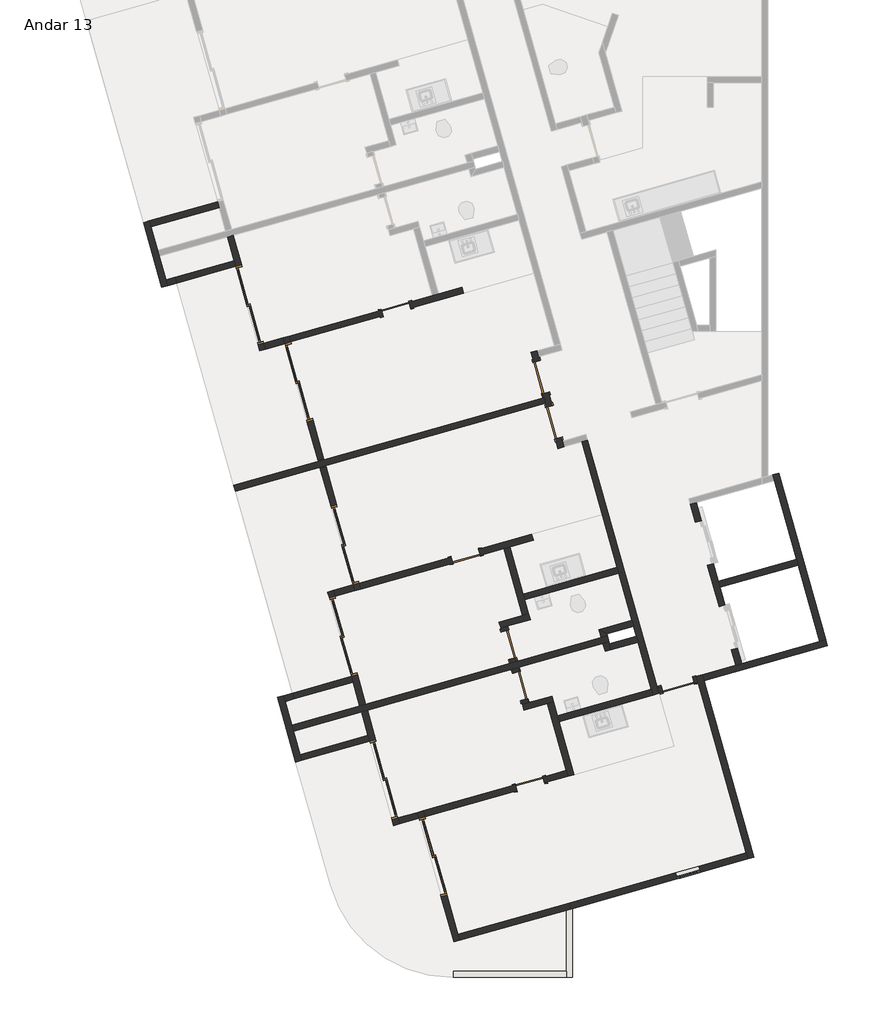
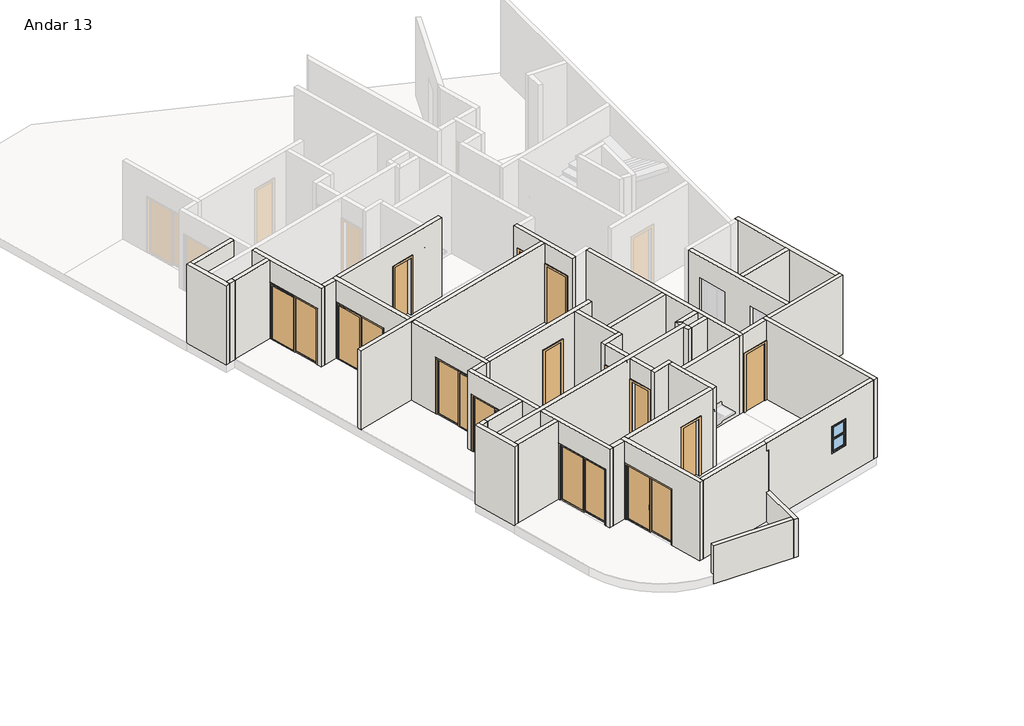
# One storey, part 1 of 3: 46 walls, 14 doors, 1 window.
"""IFC4 building model written with IfcOpenShell, lengths in millimetres."""

from ifc_helpers import new_model, si_unit, frame, origin, place, context, project, spatial, polyline, outline, extrude, faceted_brep, transform, mapped, element, save
from components import p2_80cm_9d4be4ef, p2_80cm_083652d6, p3_70cm_ef4d15e3, p3_70cm_0a698c7c, p4_correr_200cm_eaaa0877, p4_correr_200cm_830b8f20, bx_60cm_cef95a5c

model = new_model("IFC4")

# Units and contexts
model_context = context("Model", 3, world=origin())
ifc_project = project(units=[si_unit("LENGTHUNIT", "METRE", prefix="MILLI")], contexts=[model_context])

# Site, building, storey
site = spatial("IfcSite", under=ifc_project)
building = spatial("IfcBuilding", under=site)
storey = spatial("IfcBuildingStorey", under=building, Name="Andar 13", Elevation=88450.0)

# Doors
placement = place(None, origin())
p2_80cm_shape = p2_80cm_9d4be4ef(model_context)
element("IfcDoor", 1, ObjectType="M_Folha única1 : P2 - 80CM", at=placement, inside=storey, context=model_context, shape_type="MappedRepresentation", body=[
    mapped(p2_80cm_shape, transform((-80566.3456776, 19693.5423602, 88450.0), x_axis=(0.2717679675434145, -0.9623628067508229, 0.0), y_axis=(0.9623628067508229, 0.2717679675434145, 0.0), z_axis=(0.0, 0.0, 1.0))),
])
element("IfcDoor", 2, ObjectType="M_Folha única1 : P2 - 80CM", at=placement, inside=storey, context=model_context, shape_type="MappedRepresentation", body=[
    mapped(p2_80cm_shape, transform((-77213.6668366, 12144.847648, 88450.0), x_axis=(0.9623628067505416, 0.2717679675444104, 0.0), y_axis=(-0.2717679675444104, 0.9623628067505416, 0.0), z_axis=(0.0, 0.0, 1.0))),
])
p2_80cm_2_shape = p2_80cm_083652d6(model_context)
element("IfcDoor", 3, ObjectType="M_Folha única1 : P2 - 80CM", at=placement, inside=storey, context=model_context, shape_type="MappedRepresentation", body=[
    mapped(p2_80cm_2_shape, transform((-80253.8125149, 18586.8251325, 88450.0), x_axis=(-0.2717679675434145, 0.9623628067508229, 0.0), y_axis=(-0.9623628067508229, -0.2717679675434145, 0.0), z_axis=(0.0, 0.0, 1.0))),
])
p3_70cm_shape = p3_70cm_ef4d15e3(model_context)
element("IfcDoor", 4, ObjectType="M_Folha única1 : P3 - 70CM", at=placement, inside=storey, context=model_context, shape_type="MappedRepresentation", body=[
    mapped(p3_70cm_shape, transform((-84129.1775441, 21363.1168842, 88450.0), x_axis=(0.9623628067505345, 0.27176796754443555, 0.0), y_axis=(-0.27176796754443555, 0.9623628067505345, 0.0), z_axis=(0.0, 0.0, 1.0))),
])
element("IfcDoor", 5, ObjectType="M_Folha única1 : P3 - 70CM", at=placement, inside=storey, context=model_context, shape_type="MappedRepresentation", body=[
    mapped(p3_70cm_shape, transform((-80840.7851368, 9718.5269225, 88450.0), x_axis=(0.9623628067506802, 0.2717679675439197, 0.0), y_axis=(-0.2717679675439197, 0.9623628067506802, 0.0), z_axis=(0.0, 0.0, 1.0))),
])
element("IfcDoor", 6, ObjectType="M_Folha única1 : P3 - 70CM", at=placement, inside=storey, context=model_context, shape_type="MappedRepresentation", body=[
    mapped(p3_70cm_shape, transform((-81362.5862327, 13130.1209218, 88450.0), x_axis=(0.27176796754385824, -0.9623628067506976, 0.0), y_axis=(0.9623628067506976, 0.27176796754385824, 0.0), z_axis=(0.0, 0.0, 1.0))),
])
p3_70cm_2_shape = p3_70cm_0a698c7c(model_context)
element("IfcDoor", 7, ObjectType="M_Folha única1 : P3 - 70CM", at=placement, inside=storey, context=model_context, shape_type="MappedRepresentation", body=[
    mapped(p3_70cm_2_shape, transform((-81077.2298668, 12119.6399747, 88450.0), x_axis=(-0.27176796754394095, 0.9623628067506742, 0.0), y_axis=(-0.9623628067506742, -0.27176796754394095, 0.0), z_axis=(0.0, 0.0, 1.0))),
])
element("IfcDoor", 8, ObjectType="M_Folha única1 : P3 - 70CM", at=placement, inside=storey, context=model_context, shape_type="MappedRepresentation", body=[
    mapped(p3_70cm_2_shape, transform((-82417.0393485, 15300.2312016, 88450.0), x_axis=(0.9623628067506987, 0.2717679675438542, 0.0), y_axis=(-0.2717679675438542, 0.9623628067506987, 0.0), z_axis=(0.0, 0.0, 1.0))),
])
p4_correr_200cm_shape = p4_correr_200cm_eaaa0877(model_context)
element("IfcDoor", 9, ObjectType="Porta de correr dupla envidraçada sem revestimento : P4 - CORRER - 200CM", at=placement, inside=storey, context=model_context, shape_type="MappedRepresentation", body=[
    mapped(p4_correr_200cm_shape, transform((-86511.4049952, 19573.3416554, 88450.0), x_axis=(0.2717679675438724, -0.9623628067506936, 0.0), y_axis=(0.9623628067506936, 0.2717679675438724, 0.0), z_axis=(0.0, 0.0, 1.0))),
])
element("IfcDoor", 10, ObjectType="Porta de correr dupla envidraçada sem revestimento : P4 - CORRER - 200CM", at=placement, inside=storey, context=model_context, shape_type="MappedRepresentation", body=[
    mapped(p4_correr_200cm_shape, transform((-87717.4207223, 21466.8516126, 88450.0), x_axis=(0.2717679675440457, -0.9623628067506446, 0.0), y_axis=(0.9623628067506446, 0.2717679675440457, 0.0), z_axis=(0.0, 0.0, 1.0))),
])
element("IfcDoor", 11, ObjectType="Porta de correr dupla envidraçada sem revestimento : P4 - CORRER - 200CM", at=placement, inside=storey, context=model_context, shape_type="MappedRepresentation", body=[
    mapped(p4_correr_200cm_shape, transform((-84429.028315, 9822.2616509, 88450.0), x_axis=(-0.27176796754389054, 0.9623628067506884, 0.0), y_axis=(-0.9623628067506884, -0.27176796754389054, 0.0), z_axis=(0.0, 0.0, 1.0))),
])
element("IfcDoor", 12, ObjectType="Porta de correr dupla envidraçada sem revestimento : P4 - CORRER - 200CM", at=placement, inside=storey, context=model_context, shape_type="MappedRepresentation", body=[
    mapped(p4_correr_200cm_shape, transform((-83223.012588, 7928.7516937, 88450.0), x_axis=(-0.2717679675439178, 0.9623628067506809, 0.0), y_axis=(-0.9623628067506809, -0.2717679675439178, 0.0), z_axis=(0.0, 0.0, 1.0))),
])
p4_correr_200cm_2_shape = p4_correr_200cm_830b8f20(model_context)
element("IfcDoor", 13, ObjectType="Porta de correr dupla envidraçada sem revestimento : P4 - CORRER - 200CM", at=placement, inside=storey, context=model_context, shape_type="MappedRepresentation", body=[
    mapped(p4_correr_200cm_2_shape, transform((-85383.5679299, 15579.5360073, 88450.0), x_axis=(-0.2717679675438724, 0.9623628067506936, 0.0), y_axis=(-0.9623628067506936, -0.2717679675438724, 0.0), z_axis=(0.0, 0.0, 1.0))),
])
element("IfcDoor", 14, ObjectType="Porta de correr dupla envidraçada sem revestimento : P4 - CORRER - 200CM", at=placement, inside=storey, context=model_context, shape_type="MappedRepresentation", body=[
    mapped(p4_correr_200cm_2_shape, transform((-85420.9813965, 13334.8858955, 88450.0), x_axis=(-0.27176796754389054, 0.9623628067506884, 0.0), y_axis=(-0.9623628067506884, -0.27176796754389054, 0.0), z_axis=(0.0, 0.0, 1.0))),
])

# Walls
element("IfcWall", 15, ObjectType="Básica .15 - Externa", at=placement, inside=storey, context=model_context, shape_type="Brep", body=[
    faceted_brep([(-75344.9919691, 7919.3931149, 88450.0), (-76567.7484146, 12249.3196164, 88450.0), (-76608.5136097, 12393.6740374, 88450.0), (-76608.5136097, 12393.6740374, 91350.0), (-76567.7484146, 12249.3196164, 91350.0), (-75344.9919691, 7919.3931149, 91350.0), (-75489.3463901, 7878.6279198, 88450.0), (-75489.3463901, 7878.6279198, 91350.0), (-75530.1115852, 8022.9823408, 91350.0), (-76712.1028356, 12208.5544213, 91350.0), (-76752.8680308, 12352.9088423, 91350.0), (-76752.8680308, 12352.9088423, 88450.0), (-76712.1028356, 12208.5544213, 88450.0), (-75530.1115852, 8022.9823408, 88450.0)], [[[0, 1, 2, 3, 4, 5]], [[6, 7, 8, 9, 10, 11, 12, 13]], [[2, 1, 0, 6, 13, 12, 11]], [[5, 4, 3, 10, 9, 8, 7]], [[0, 5, 7, 6]], [[3, 2, 11, 10]]]),
])
element("IfcWall", 16, ObjectType="Básica .15 -  Interna", at=placement, inside=storey, context=model_context, shape_type="Brep", body=[
    faceted_brep([(-80529.815701, 19288.21464, 88450.0), (-80502.6389043, 19191.9783593, 88450.0), (-80461.8737092, 19047.6239383, 88450.0), (-80434.6969124, 18951.3876576, 88450.0), (-80434.6969124, 18951.3876576, 90550.0), (-80217.2825384, 18181.4974122, 90550.0), (-80217.2825384, 18181.4974122, 88450.0), (-80149.3405465, 17940.9067105, 88450.0), (-80149.3405465, 17940.9067105, 91350.0), (-80461.8737092, 19047.6239383, 91350.0), (-80502.6389043, 19191.9783593, 91350.0), (-80815.172067, 20298.695587, 91350.0), (-80815.172067, 20298.695587, 88450.0), (-80747.2300751, 20058.1048854, 88450.0), (-80747.2300751, 20058.1048854, 90550.0), (-80529.815701, 19288.21464, 90550.0), (-80290.3424914, 18992.1528527, 90550.0), (-80290.3424914, 18992.1528527, 88450.0), (-80385.46128, 19328.9798351, 88450.0), (-80385.46128, 19328.9798351, 90550.0), (-80602.8756541, 20098.8700805, 90550.0), (-80602.8756541, 20098.8700805, 88450.0), (-80630.0524508, 20195.1063612, 88450.0), (-80670.817646, 20339.4607822, 88450.0), (-80670.817646, 20339.4607822, 91350.0), (-80630.0524508, 20195.1063612, 91350.0), (-80045.7513206, 18126.0263266, 91350.0), (-80004.9861255, 17981.6719056, 91350.0), (-80004.9861255, 17981.6719056, 88450.0), (-80045.7513206, 18126.0263266, 88450.0), (-80072.9281174, 18222.2626073, 88450.0), (-80072.9281174, 18222.2626073, 90550.0)], [[[0, 1, 2, 3, 4, 5, 6, 7, 8, 9, 10, 11, 12, 13, 14, 15]], [[16, 17, 18, 19, 20, 21, 22, 23, 24, 25, 26, 27, 28, 29, 30, 31]], [[13, 12, 23, 22, 21]], [[18, 17, 3, 2, 1, 0]], [[30, 29, 28, 7, 6]], [[11, 10, 9, 8, 27, 26, 25, 24]], [[12, 11, 24, 23]], [[8, 7, 28, 27]], [[19, 18, 0, 15]], [[20, 19, 15, 14]], [[21, 20, 14, 13]], [[4, 3, 17, 16]], [[5, 4, 16, 31]], [[6, 5, 31, 30]]]),
])
element("IfcWall", 17, ObjectType="Básica .15 -  Interna", at=placement, inside=storey, context=model_context, shape_type="Brep", body=[
    faceted_brep([(-79571.9228624, 18103.967491, 88450.0), (-78702.2653663, 15024.4065094, 88450.0), (-78661.5001712, 14880.0520884, 88450.0), (-78335.3786101, 13725.2167203, 88450.0), (-78294.613415, 13580.8622993, 88450.0), (-78226.6714231, 13340.2715976, 88450.0), (-78185.906228, 13195.9171766, 88450.0), (-77818.8200634, 11896.0212586, 88450.0), (-77818.8200634, 11896.0212586, 91350.0), (-78185.906228, 13195.9171766, 91350.0), (-78226.6714231, 13340.2715976, 91350.0), (-78294.613415, 13580.8622993, 91350.0), (-78335.3786101, 13725.2167203, 91350.0), (-78661.5001712, 14880.0520884, 91350.0), (-78702.2653663, 15024.4065094, 91350.0), (-79571.9228624, 18103.967491, 91350.0), (-79427.5684414, 18144.7326862, 88450.0), (-79427.5684414, 18144.7326862, 91350.0), (-77715.2308375, 12081.1408747, 91350.0), (-77674.4656424, 11936.7864537, 91350.0), (-77674.4656424, 11936.7864537, 88450.0), (-77715.2308375, 12081.1408747, 88450.0)], [[[0, 1, 2, 3, 4, 5, 6, 7, 8, 9, 10, 11, 12, 13, 14, 15]], [[16, 17, 18, 19, 20, 21]], [[7, 6, 5, 4, 3, 2, 1, 0, 16, 21, 20]], [[15, 14, 13, 12, 11, 10, 9, 8, 19, 18, 17]], [[0, 15, 17, 16]], [[8, 7, 20, 19]]]),
])
element("IfcWall", 18, ObjectType="Básica .15 -  Interna", at=placement, inside=storey, context=model_context, shape_type="Brep", body=[
    faceted_brep([(-85017.5646639, 11630.3683862, 91350.0), (-85180.6254444, 12207.7860702, 91350.0), (-85221.3906395, 12352.1404912, 91350.0), (-85805.6917697, 14421.2205257, 91350.0), (-85805.6917697, 14421.2205257, 88450.0), (-85764.9265746, 14276.8661047, 88450.0), (-85764.9265746, 14276.8661047, 90550.0), (-85221.3906395, 12352.1404912, 90550.0), (-85221.3906395, 12352.1404912, 88450.0), (-85180.6254444, 12207.7860702, 88450.0), (-85017.5646639, 11630.3683862, 88450.0), (-85661.3373487, 14461.9857209, 91350.0), (-85620.5721536, 14317.6312998, 91350.0), (-84873.2102428, 11671.1335813, 91350.0), (-84873.2102428, 11671.1335813, 88450.0), (-85077.0362185, 12392.9056863, 88450.0), (-85077.0362185, 12392.9056863, 90550.0), (-85620.5721536, 14317.6312998, 90550.0), (-85620.5721536, 14317.6312998, 88450.0), (-85661.3373487, 14461.9857209, 88450.0)], [[[0, 1, 2, 3, 4, 5, 6, 7, 8, 9, 10]], [[11, 12, 13, 14, 15, 16, 17, 18, 19]], [[4, 19, 18, 5]], [[14, 10, 9, 8, 15]], [[3, 2, 1, 0, 13, 12, 11]], [[4, 3, 11, 19]], [[0, 10, 14, 13]], [[17, 6, 5, 18]], [[6, 17, 16, 7]], [[7, 16, 15, 8]]]),
])
element("IfcWall", 19, ObjectType="Básica .15 -  Interna", at=placement, inside=storey, context=model_context, shape_type="Brep", body=[
    faceted_brep([(-82710.8886682, 5839.2890616, 91350.0), (-83566.957766, 8870.7319029, 91350.0), (-83607.7229611, 9015.0863239, 91350.0), (-83607.7229611, 9015.0863239, 88450.0), (-83566.957766, 8870.7319029, 88450.0), (-83566.957766, 8870.7319029, 90550.0), (-83023.4218309, 6946.0062894, 90550.0), (-83023.4218309, 6946.0062894, 88450.0), (-82710.8886682, 5839.2890616, 88450.0), (-83463.3685401, 9055.851519, 91350.0), (-83422.603345, 8911.497098, 91350.0), (-82607.2994424, 6024.4086777, 91350.0), (-82566.5342472, 5880.0542567, 91350.0), (-82566.5342472, 5880.0542567, 88450.0), (-82607.2994424, 6024.4086777, 88450.0), (-82879.0674099, 6986.7714845, 88450.0), (-82879.0674099, 6986.7714845, 90550.0), (-83422.603345, 8911.497098, 90550.0), (-83422.603345, 8911.497098, 88450.0), (-83463.3685401, 9055.851519, 88450.0)], [[[0, 1, 2, 3, 4, 5, 6, 7, 8]], [[9, 10, 11, 12, 13, 14, 15, 16, 17, 18, 19]], [[3, 19, 18, 4]], [[13, 8, 7, 15, 14]], [[2, 1, 0, 12, 11, 10, 9]], [[3, 2, 9, 19]], [[0, 8, 13, 12]], [[17, 5, 4, 18]], [[5, 17, 16, 6]], [[6, 16, 15, 7]]]),
])
element("IfcWall", 20, ObjectType="Básica .15 -  Interna", at=placement, inside=storey, context=model_context, shape_type="Brep", body=[
    faceted_brep([(-86046.8404698, 17652.2925145, 88450.0), (-86046.8404698, 17652.2925145, 91350.0), (-86855.3501733, 20515.3218646, 91350.0), (-86896.1153684, 20659.6762856, 91350.0), (-86896.1153684, 20659.6762856, 88450.0), (-86855.3501733, 20515.3218646, 88450.0), (-86855.3501733, 20515.3218646, 90550.0), (-86311.8142382, 18590.596251, 90550.0), (-86311.8142382, 18590.596251, 88450.0), (-85902.4860488, 17693.0577096, 91350.0), (-85902.4860488, 17693.0577096, 88450.0), (-86167.4598172, 18631.3614462, 88450.0), (-86167.4598172, 18631.3614462, 90550.0), (-86710.9957523, 20556.0870597, 90550.0), (-86710.9957523, 20556.0870597, 88450.0), (-86751.7609474, 20700.4414807, 88450.0), (-86751.7609474, 20700.4414807, 91350.0), (-86710.9957523, 20556.0870597, 91350.0)], [[[0, 1, 2, 3, 4, 5, 6, 7, 8]], [[9, 10, 11, 12, 13, 14, 15, 16, 17]], [[10, 0, 8, 11]], [[4, 15, 14, 5]], [[1, 0, 10, 9]], [[3, 2, 1, 9, 17, 16]], [[4, 3, 16, 15]], [[7, 12, 11, 8]], [[12, 7, 6, 13]], [[13, 6, 5, 14]]]),
])
element("IfcWall", 21, ObjectType="Básica .15 - Externa", at=placement, inside=storey, context=model_context, shape_type="Brep", body=[
    faceted_brep([(-79945.4990038, 6620.2256515, 89550.0), (-79945.4990038, 6620.2256515, 88450.0), (-79945.4990038, 6620.2256515, 88150.0), (-79945.4990038, 5119.4122055, 88150.0), (-79945.4990038, 4969.4122055, 88150.0), (-79945.4990038, 4969.4122055, 89550.0), (-79945.4990038, 5119.4122055, 89550.0), (-79795.4990038, 6662.5851389, 88150.0), (-79795.4990038, 6662.5851389, 89550.0), (-79795.4990038, 4969.4122055, 89550.0), (-79795.4990038, 4969.4122055, 88150.0), (-79850.1164062, 6647.1613711, 88150.0)], [[[0, 1, 2, 3, 4, 5, 6]], [[7, 8, 9, 10]], [[4, 3, 2, 11, 7, 10]], [[0, 6, 5, 9, 8]], [[5, 4, 10, 9]], [[0, 8, 7, 11, 2, 1]]]),
])
element("IfcWall", 22, ObjectType="Básica .15 - Externa", at=placement, inside=storey, context=model_context, shape_type="SweptSolid", body=[
    extrude(outline(polyline([(-82713.5540687, 5119.4122055), (-79945.4990038, 5119.4122055), (-79945.4990038, 4969.4122055), (-82713.5540687, 4969.4122055), (-82713.5540687, 5119.4122055)])), frame((0.0, 0.0, 88150.0), z_axis=(0.0, 0.0, 1.0), x_axis=(1.0, 0.0, 0.0)), (0.0, 0.0, 1.0), 1400.0),
])
element("IfcWall", 23, ObjectType="Básica .15 - Externa", at=placement, inside=storey, context=model_context, shape_type="Brep", body=[
    faceted_brep([(-73581.8825825, 13248.3842954, 88450.0), (-73726.2370035, 13207.6191002, 88450.0), (-75646.150803, 12665.442005, 88450.0), (-75790.505224, 12624.6768098, 88450.0), (-76608.5136097, 12393.6740374, 88450.0), (-76608.5136097, 12393.6740374, 91350.0), (-75790.505224, 12624.6768098, 91350.0), (-75646.150803, 12665.442005, 91350.0), (-73726.2370035, 13207.6191002, 91350.0), (-73581.8825825, 13248.3842954, 91350.0), (-73541.1173874, 13104.0298743, 88450.0), (-73541.1173874, 13104.0298743, 91350.0), (-76567.7484146, 12249.3196164, 91350.0), (-76567.7484146, 12249.3196164, 88450.0)], [[[0, 1, 2, 3, 4, 5, 6, 7, 8, 9]], [[10, 11, 12, 13]], [[4, 3, 2, 1, 0, 10, 13]], [[9, 8, 7, 6, 5, 12, 11]], [[0, 9, 11, 10]], [[5, 4, 13, 12]]]),
])
element("IfcWall", 24, ObjectType="Básica .15 - Externa", at=placement, inside=storey, context=model_context, shape_type="Brep", body=[
    faceted_brep([(-74881.2508656, 17297.6610289, 88450.0), (-74840.4856705, 17153.3066079, 88450.0), (-74296.9497354, 15228.5809944, 88450.0), (-74256.1845402, 15084.2265734, 88450.0), (-73726.2370035, 13207.6191002, 88450.0), (-73726.2370035, 13207.6191002, 91350.0), (-74256.1845402, 15084.2265734, 91350.0), (-74296.9497354, 15228.5809944, 91350.0), (-74840.4856705, 17153.3066079, 91350.0), (-74881.2508656, 17297.6610289, 91350.0), (-74736.8964446, 17338.426224, 88450.0), (-74736.8964446, 17338.426224, 91350.0), (-73581.8825825, 13248.3842954, 91350.0), (-73581.8825825, 13248.3842954, 88450.0)], [[[0, 1, 2, 3, 4, 5, 6, 7, 8, 9]], [[10, 11, 12, 13]], [[4, 3, 2, 1, 0, 10, 13]], [[9, 8, 7, 6, 5, 12, 11]], [[0, 9, 11, 10]], [[5, 4, 13, 12]]]),
])
element("IfcWall", 25, ObjectType="Básica .15 -  Interna", at=placement, inside=storey, context=model_context, shape_type="Brep", body=[
    faceted_brep([(-76483.167581, 15077.4768805, 88450.0), (-76197.8112151, 14066.9959334, 88450.0), (-76197.8112151, 14066.9959334, 90575.0), (-75898.8664508, 13008.396846, 90575.0), (-75898.8664508, 13008.396846, 88450.0), (-75790.505224, 12624.6768098, 88450.0), (-75790.505224, 12624.6768098, 91350.0), (-76904.7538909, 16570.3643175, 91350.0), (-76904.7538909, 16570.3643175, 88450.0), (-76782.1123453, 16136.075968, 88450.0), (-76782.1123453, 16136.075968, 90575.0), (-76483.167581, 15077.4768805, 90575.0), (-76053.4567941, 14107.7611286, 90575.0), (-76053.4567941, 14107.7611286, 88450.0), (-76176.0983397, 14542.0494781, 88450.0), (-76216.8635348, 14686.4038991, 88450.0), (-76338.81316, 15118.2420757, 88450.0), (-76338.81316, 15118.2420757, 90575.0), (-76637.7579243, 16176.8411631, 90575.0), (-76637.7579243, 16176.8411631, 88450.0), (-76760.3994699, 16611.1295126, 88450.0), (-76760.3994699, 16611.1295126, 91350.0), (-76216.8635348, 14686.4038991, 91350.0), (-76176.0983397, 14542.0494781, 91350.0), (-75646.150803, 12665.442005, 91350.0), (-75646.150803, 12665.442005, 88450.0), (-75754.5120298, 13049.1620412, 88450.0), (-75754.5120298, 13049.1620412, 90575.0)], [[[0, 1, 2, 3, 4, 5, 6, 7, 8, 9, 10, 11]], [[12, 13, 14, 15, 16, 17, 18, 19, 20, 21, 22, 23, 24, 25, 26, 27]], [[9, 8, 20, 19]], [[26, 25, 5, 4]], [[16, 15, 14, 13, 1, 0]], [[7, 6, 24, 23, 22, 21]], [[8, 7, 21, 20]], [[6, 5, 25, 24]], [[4, 3, 27, 26]], [[2, 1, 13, 12]], [[3, 2, 12, 27]], [[19, 18, 10, 9]], [[17, 16, 0, 11]], [[18, 17, 11, 10]]]),
])
element("IfcWall", 26, ObjectType="Básica .15 -  Interna", at=placement, inside=storey, context=model_context, shape_type="SweptSolid", body=[
    extrude(outline(polyline([(-74256.1845402, 15084.2265734), (-76176.0983397, 14542.0494781), (-76216.8635348, 14686.4038991), (-74296.9497354, 15228.5809944), (-74256.1845402, 15084.2265734)])), frame((0.0, 0.0, 88450.0), z_axis=(0.0, 0.0, 1.0), x_axis=(1.0, 0.0, 0.0)), (0.0, 0.0, 1.0), 2900.0),
])
element("IfcWall", 27, ObjectType="Básica .15 -  Interna", at=placement, inside=storey, context=model_context, shape_type="Brep", body=[
    faceted_brep([(-82566.5342472, 5880.0542567, 88450.0), (-79945.4990038, 6620.2256515, 88450.0), (-79850.1164062, 6647.1613711, 88450.0), (-79850.1164062, 6647.1613711, 91050.0), (-79945.4990038, 6620.2256515, 91050.0), (-79945.4990038, 6620.2256515, 91350.0), (-82566.5342472, 5880.0542567, 91350.0), (-82607.2994424, 6024.4086777, 88450.0), (-82607.2994424, 6024.4086777, 91350.0), (-79945.4990038, 6776.0920243, 91350.0), (-79945.4990038, 6776.0920243, 91050.0), (-79890.8816014, 6791.5157921, 91050.0), (-79890.8816014, 6791.5157921, 88450.0), (-79945.4990038, 6776.0920243, 88450.0)], [[[0, 1, 2, 3, 4, 5, 6]], [[7, 8, 9, 10, 11, 12, 13]], [[2, 1, 0, 7, 13, 12]], [[6, 5, 9, 8]], [[0, 6, 8, 7]], [[2, 12, 11, 3]], [[10, 4, 3, 11]], [[5, 4, 10, 9]]]),
])
element("IfcWall", 28, ObjectType="Básica .15 -  Interna", at=placement, inside=storey, context=model_context, shape_type="Brep", body=[
    faceted_brep([(-85221.3906395, 12352.1404912, 88450.0), (-86668.7560772, 11943.4094383, 88450.0), (-86668.7560772, 11943.4094383, 91350.0), (-85221.3906395, 12352.1404912, 91350.0), (-85221.3906395, 12352.1404912, 90550.0), (-85180.6254444, 12207.7860702, 88450.0), (-85180.6254444, 12207.7860702, 91350.0), (-86627.9908821, 11799.0550173, 91350.0), (-86627.9908821, 11799.0550173, 88450.0)], [[[0, 1, 2, 3, 4]], [[5, 6, 7, 8]], [[1, 0, 5, 8]], [[2, 1, 8, 7]], [[3, 2, 7, 6]], [[0, 4, 3, 6, 5]]]),
])
element("IfcWall", 29, ObjectType="Básica .15 - Externa", at=placement, inside=storey, context=model_context, shape_type="Brep", body=[
    faceted_brep([(-86444.4738537, 10292.215871, 88450.0), (-86485.2390488, 10436.570292, 88450.0), (-86648.2998293, 11013.987976, 88450.0), (-86689.0650245, 11158.342397, 88450.0), (-86852.125805, 11735.7600811, 88450.0), (-86892.8910001, 11880.1145021, 88450.0), (-86892.8910001, 11880.1145021, 91350.0), (-86852.125805, 11735.7600811, 91350.0), (-86689.0650245, 11158.342397, 91350.0), (-86648.2998293, 11013.987976, 91350.0), (-86485.2390488, 10436.570292, 91350.0), (-86444.4738537, 10292.215871, 91350.0), (-86588.8282747, 10251.4506758, 88450.0), (-86588.8282747, 10251.4506758, 91350.0), (-87037.2454211, 11839.349307, 91350.0), (-87037.2454211, 11839.349307, 88450.0)], [[[0, 1, 2, 3, 4, 5, 6, 7, 8, 9, 10, 11]], [[12, 13, 14, 15]], [[5, 4, 3, 2, 1, 0, 12, 15]], [[11, 10, 9, 8, 7, 6, 14, 13]], [[6, 5, 15, 14]], [[0, 11, 13, 12]]]),
])
element("IfcWall", 30, ObjectType="Básica .15 -  Interna", at=placement, inside=storey, context=model_context, shape_type="Brep", body=[
    faceted_brep([(-86444.4738537, 10292.215871, 88450.0), (-84772.9734931, 10764.2418601, 88450.0), (-84772.9734931, 10764.2418601, 90550.0), (-84772.9734931, 10764.2418601, 91350.0), (-86444.4738537, 10292.215871, 91350.0), (-86485.2390488, 10436.570292, 88450.0), (-86485.2390488, 10436.570292, 91350.0), (-84813.7386882, 10908.5962811, 91350.0), (-84813.7386882, 10908.5962811, 88450.0)], [[[0, 1, 2, 3, 4]], [[5, 6, 7, 8]], [[1, 0, 5, 8]], [[4, 3, 7, 6]], [[0, 4, 6, 5]], [[3, 2, 1, 8, 7]]]),
])
element("IfcWall", 31, ObjectType="Básica .15 - Externa", at=placement, inside=storey, context=model_context, shape_type="Brep", body=[
    faceted_brep([(-89732.866261, 21936.8058326, 88450.0), (-89773.6314561, 22081.1602536, 88450.0), (-89936.6922366, 22658.5779377, 88450.0), (-89977.4574318, 22802.9323587, 88450.0), (-90140.5182123, 23380.3500428, 88450.0), (-90181.2834074, 23524.7044638, 88450.0), (-90181.2834074, 23524.7044638, 91350.0), (-90140.5182123, 23380.3500428, 91350.0), (-89977.4574318, 22802.9323587, 91350.0), (-89936.6922366, 22658.5779377, 91350.0), (-89773.6314561, 22081.1602536, 91350.0), (-89732.866261, 21936.8058326, 91350.0), (-89877.220682, 21896.0406375, 88450.0), (-89877.220682, 21896.0406375, 91350.0), (-90325.6378284, 23483.9392686, 91350.0), (-90325.6378284, 23483.9392686, 88450.0)], [[[0, 1, 2, 3, 4, 5, 6, 7, 8, 9, 10, 11]], [[12, 13, 14, 15]], [[5, 4, 3, 2, 1, 0, 12, 15]], [[11, 10, 9, 8, 7, 6, 14, 13]], [[0, 11, 13, 12]], [[6, 5, 15, 14]]]),
])
element("IfcWall", 32, ObjectType="Básica .15 -  Interna", at=placement, inside=storey, context=model_context, shape_type="Brep", body=[
    faceted_brep([(-88102.1310955, 22553.1862428, 88450.0), (-89549.4965332, 22144.4551899, 88450.0), (-89549.4965332, 22144.4551899, 91350.0), (-88102.1310955, 22553.1862428, 91350.0), (-88061.3659003, 22408.8318218, 88450.0), (-88061.3659003, 22408.8318218, 90550.0), (-88061.3659003, 22408.8318218, 91350.0), (-89508.731338, 22000.1007688, 91350.0), (-89508.731338, 22000.1007688, 88450.0)], [[[0, 1, 2, 3]], [[4, 5, 6, 7, 8]], [[1, 0, 4, 8]], [[2, 1, 8, 7]], [[3, 2, 7, 6]], [[0, 3, 6, 5, 4]]]),
])
element("IfcWall", 33, ObjectType="Básica .15 -  Interna", at=placement, inside=storey, context=model_context, shape_type="Brep", body=[
    faceted_brep([(-90140.5182123, 23380.3500428, 88450.0), (-88469.0178517, 23852.3760319, 88450.0), (-88469.0178517, 23852.3760319, 91350.0), (-90140.5182123, 23380.3500428, 91350.0), (-90181.2834074, 23524.7044638, 88450.0), (-90181.2834074, 23524.7044638, 91350.0), (-88509.7830468, 23996.7304529, 91350.0), (-88509.7830468, 23996.7304529, 90550.0), (-88509.7830468, 23996.7304529, 88450.0)], [[[0, 1, 2, 3]], [[4, 5, 6, 7, 8]], [[1, 0, 4, 8]], [[3, 2, 6, 5]], [[0, 3, 5, 4]], [[2, 1, 8, 7, 6]]]),
])
element("IfcWall", 34, ObjectType="Básica .15 -  Interna", at=placement, inside=storey, context=model_context, shape_type="Brep", body=[
    faceted_brep([(-86896.1153684, 20659.6762856, 88450.0), (-87373.4755442, 20524.8714034, 88450.0), (-87373.4755442, 20524.8714034, 90550.0), (-87373.4755442, 20524.8714034, 91350.0), (-86896.1153684, 20659.6762856, 91350.0), (-86855.3501733, 20515.3218646, 88450.0), (-86855.3501733, 20515.3218646, 90550.0), (-86855.3501733, 20515.3218646, 91350.0), (-87332.7103491, 20380.5169824, 91350.0), (-87332.7103491, 20380.5169824, 88450.0)], [[[0, 1, 2, 3, 4]], [[5, 6, 7, 8, 9]], [[1, 0, 5, 9]], [[4, 3, 8, 7]], [[0, 4, 7, 6, 5]], [[3, 2, 1, 9, 8]]]),
])
element("IfcWall", 35, ObjectType="Básica .15 -  Interna", at=placement, inside=storey, context=model_context, shape_type="Brep", body=[
    faceted_brep([(-83607.7229611, 9015.0863239, 88450.0), (-84085.083137, 8880.2814417, 88450.0), (-84085.083137, 8880.2814417, 90550.0), (-84085.083137, 8880.2814417, 91350.0), (-83607.7229611, 9015.0863239, 91350.0), (-83566.957766, 8870.7319029, 88450.0), (-83566.957766, 8870.7319029, 90550.0), (-83566.957766, 8870.7319029, 91350.0), (-84044.3179418, 8735.9270207, 91350.0), (-84044.3179418, 8735.9270207, 88450.0)], [[[0, 1, 2, 3, 4]], [[5, 6, 7, 8, 9]], [[1, 0, 5, 9]], [[4, 3, 8, 7]], [[3, 2, 1, 9, 8]], [[0, 4, 7, 6, 5]]]),
])
element("IfcWall", 36, ObjectType="Básica .15 -  Interna", at=placement, inside=storey, context=model_context, shape_type="Brep", body=[
    faceted_brep([(-85183.9771729, 14596.790603, 88450.0), (-85661.3373487, 14461.9857209, 88450.0), (-85661.3373487, 14461.9857209, 91350.0), (-85183.9771729, 14596.790603, 91350.0), (-85183.9771729, 14596.790603, 90550.0), (-85143.2119778, 14452.436182, 88450.0), (-85143.2119778, 14452.436182, 91350.0), (-85620.5721536, 14317.6312998, 91350.0), (-85620.5721536, 14317.6312998, 90550.0), (-85620.5721536, 14317.6312998, 88450.0)], [[[0, 1, 2, 3, 4]], [[5, 6, 7, 8, 9]], [[1, 0, 5, 9]], [[3, 2, 7, 6]], [[2, 1, 9, 8, 7]], [[0, 4, 3, 6, 5]]]),
])
element("IfcWall", 37, ObjectType="Básica .15 -  Interna", at=placement, inside=storey, context=model_context, shape_type="Brep", body=[
    faceted_brep([(-87477.0647701, 20339.7517872, 91350.0), (-88061.3659003, 22408.8318218, 91350.0), (-88102.1310955, 22553.1862428, 91350.0), (-88265.191876, 23130.6039268, 91350.0), (-88265.191876, 23130.6039268, 88450.0), (-88102.1310955, 22553.1862428, 88450.0), (-88061.3659003, 22408.8318218, 88450.0), (-88061.3659003, 22408.8318218, 90550.0), (-87517.8299653, 20484.1062083, 90550.0), (-87517.8299653, 20484.1062083, 88450.0), (-87477.0647701, 20339.7517872, 88450.0), (-88120.837455, 23171.369122, 91350.0), (-87373.4755442, 20524.8714034, 91350.0), (-87332.7103491, 20380.5169824, 91350.0), (-87332.7103491, 20380.5169824, 88450.0), (-87373.4755442, 20524.8714034, 88450.0), (-87373.4755442, 20524.8714034, 90550.0), (-87917.0114793, 22449.5970169, 90550.0), (-87917.0114793, 22449.5970169, 88450.0), (-88120.837455, 23171.369122, 88450.0)], [[[0, 1, 2, 3, 4, 5, 6, 7, 8, 9, 10]], [[11, 12, 13, 14, 15, 16, 17, 18, 19]], [[14, 10, 9, 15]], [[4, 19, 18, 6, 5]], [[3, 2, 1, 0, 13, 12, 11]], [[0, 10, 14, 13]], [[4, 3, 11, 19]], [[8, 16, 15, 9]], [[16, 8, 7, 17]], [[17, 7, 6, 18]]]),
])
element("IfcWall", 38, ObjectType="Básica .15 -  Interna", at=placement, inside=storey, context=model_context, shape_type="Brep", body=[
    faceted_brep([(-85143.2119778, 14452.436182, 91350.0), (-85183.9771729, 14596.790603, 91350.0), (-85992.4868763, 17459.8199531, 91350.0), (-85992.4868763, 17459.8199531, 88450.0), (-85727.513108, 16521.5162165, 88450.0), (-85727.513108, 16521.5162165, 90550.0), (-85183.9771729, 14596.790603, 90550.0), (-85183.9771729, 14596.790603, 88450.0), (-85143.2119778, 14452.436182, 88450.0), (-85848.1324553, 17500.5851482, 91350.0), (-85039.6227519, 14637.5557982, 91350.0), (-84998.8575568, 14493.2013772, 91350.0), (-84998.8575568, 14493.2013772, 88450.0), (-85039.6227519, 14637.5557982, 88450.0), (-85039.6227519, 14637.5557982, 90550.0), (-85583.158687, 16562.2814117, 90550.0), (-85583.158687, 16562.2814117, 88450.0), (-85848.1324553, 17500.5851482, 88450.0)], [[[0, 1, 2, 3, 4, 5, 6, 7, 8]], [[9, 10, 11, 12, 13, 14, 15, 16, 17]], [[3, 17, 16, 4]], [[12, 8, 7, 13]], [[2, 1, 0, 11, 10, 9]], [[3, 2, 9, 17]], [[0, 8, 12, 11]], [[15, 5, 4, 16]], [[5, 15, 14, 6]], [[6, 14, 13, 7]]]),
])
element("IfcWall", 39, ObjectType="Básica .15 -  Interna", at=placement, inside=storey, context=model_context, shape_type="SweptSolid", body=[
    extrude(outline(polyline([(-80461.8737092, 19047.6239383), (-88068.36111, 16899.5778931), (-88109.1263052, 17043.9323141), (-80502.6389043, 19191.9783593), (-80461.8737092, 19047.6239383)])), frame((0.0, 0.0, 88450.0), z_axis=(0.0, 0.0, 1.0), x_axis=(1.0, 0.0, 0.0)), (0.0, 0.0, 1.0), 2900.0),
])
element("IfcWall", 40, ObjectType="Básica .15 -  Interna", at=placement, inside=storey, context=model_context, shape_type="Brep", body=[
    faceted_brep([(-78945.0553533, 13345.2242614, 88450.0), (-81168.1134369, 12717.4402563, 88450.0), (-81312.4678579, 12676.6750612, 88450.0), (-84873.2102428, 11671.1335813, 88450.0), (-85017.5646639, 11630.3683862, 88450.0), (-86689.0650245, 11158.342397, 88450.0), (-86689.0650245, 11158.342397, 91350.0), (-85017.5646639, 11630.3683862, 91350.0), (-84873.2102428, 11671.1335813, 91350.0), (-81312.4678579, 12676.6750612, 91350.0), (-81168.1134369, 12717.4402563, 91350.0), (-78945.0553533, 13345.2242614, 91350.0), (-78904.2901581, 13200.8698403, 88450.0), (-78904.2901581, 13200.8698403, 91350.0), (-81127.3482417, 12573.0858353, 91350.0), (-81271.7026627, 12532.3206402, 91350.0), (-84832.4450477, 11526.7791603, 91350.0), (-84976.7994687, 11486.0139651, 91350.0), (-86648.2998293, 11013.987976, 91350.0), (-86648.2998293, 11013.987976, 88450.0), (-84976.7994687, 11486.0139651, 88450.0), (-84832.4450477, 11526.7791603, 88450.0), (-81271.7026627, 12532.3206402, 88450.0), (-81127.3482417, 12573.0858353, 88450.0)], [[[0, 1, 2, 3, 4, 5, 6, 7, 8, 9, 10, 11]], [[12, 13, 14, 15, 16, 17, 18, 19, 20, 21, 22, 23]], [[5, 4, 3, 2, 1, 0, 12, 23, 22, 21, 20, 19]], [[11, 10, 9, 8, 7, 6, 18, 17, 16, 15, 14, 13]], [[0, 11, 13, 12]], [[6, 5, 19, 18]]]),
])
element("IfcWall", 41, ObjectType="Básica .15 -  Interna", at=placement, inside=storey, context=model_context, shape_type="Brep", body=[
    faceted_brep([(-84188.6723628, 8695.1618256, 91350.0), (-84772.9734931, 10764.2418601, 91350.0), (-84813.7386882, 10908.5962811, 91350.0), (-84976.7994687, 11486.0139651, 91350.0), (-84976.7994687, 11486.0139651, 88450.0), (-84813.7386882, 10908.5962811, 88450.0), (-84772.9734931, 10764.2418601, 88450.0), (-84772.9734931, 10764.2418601, 90550.0), (-84229.437558, 8839.5162466, 90550.0), (-84229.437558, 8839.5162466, 88450.0), (-84188.6723628, 8695.1618256, 88450.0), (-84832.4450477, 11526.7791603, 91350.0), (-84085.083137, 8880.2814417, 91350.0), (-84044.3179418, 8735.9270207, 91350.0), (-84044.3179418, 8735.9270207, 88450.0), (-84085.083137, 8880.2814417, 88450.0), (-84085.083137, 8880.2814417, 90550.0), (-84628.6190721, 10805.0070552, 90550.0), (-84628.6190721, 10805.0070552, 88450.0), (-84832.4450477, 11526.7791603, 88450.0)], [[[0, 1, 2, 3, 4, 5, 6, 7, 8, 9, 10]], [[11, 12, 13, 14, 15, 16, 17, 18, 19]], [[14, 10, 9, 15]], [[4, 19, 18, 6, 5]], [[3, 2, 1, 0, 13, 12, 11]], [[0, 10, 14, 13]], [[4, 3, 11, 19]], [[17, 7, 6, 18]], [[7, 17, 16, 8]], [[8, 16, 15, 9]]]),
])
element("IfcWall", 42, ObjectType="Básica .15 - Externa", at=placement, inside=storey, context=model_context, shape_type="Brep", body=[
    faceted_brep([(-79850.1164062, 6647.1613711, 91050.0), (-79850.1164062, 6647.1613711, 88450.0), (-75489.3463901, 7878.6279198, 88450.0), (-75489.3463901, 7878.6279198, 91350.0), (-79850.1164062, 6647.1613711, 91350.0), (-79945.4990038, 6620.2256515, 91350.0), (-79945.4990038, 6620.2256515, 91050.0), (-76649.6431667, 7550.9640756, 89550.0), (-77227.0608508, 7387.9032951, 89550.0), (-77227.0608508, 7387.9032951, 90550.0), (-76649.6431667, 7550.9640756, 90550.0), (-79890.8816014, 6791.5157921, 88450.0), (-79890.8816014, 6791.5157921, 91050.0), (-79945.4990038, 6776.0920243, 91050.0), (-79945.4990038, 6776.0920243, 91350.0), (-79890.8816014, 6791.5157921, 91350.0), (-75530.1115852, 8022.9823408, 91350.0), (-75530.1115852, 8022.9823408, 88450.0), (-76690.4083619, 7695.3184966, 89550.0), (-76690.4083619, 7695.3184966, 90550.0), (-77267.8260459, 7532.2577161, 90550.0), (-77267.8260459, 7532.2577161, 89550.0)], [[[0, 1, 2, 3, 4, 5, 6], [7, 8, 9, 10]], [[11, 12, 13, 14, 15, 16, 17], [18, 19, 20, 21]], [[2, 1, 11, 17]], [[5, 4, 3, 16, 15, 14]], [[18, 21, 8, 7]], [[21, 20, 9, 8]], [[20, 19, 10, 9]], [[19, 18, 7, 10]], [[3, 2, 17, 16]], [[0, 12, 11, 1]], [[6, 13, 12, 0]], [[6, 5, 14, 13]]]),
])
element("IfcWall", 43, ObjectType="Básica .15 - Externa", at=placement, inside=storey, context=model_context, shape_type="SweptSolid", body=[
    extrude(outline(polyline([(-89773.6314561, 22081.1602536), (-89549.4965332, 22144.4551899), (-89508.731338, 22000.1007688), (-89732.866261, 21936.8058326), (-89773.6314561, 22081.1602536)])), frame((0.0, 0.0, 88450.0), z_axis=(0.0, 0.0, 1.0), x_axis=(1.0, 0.0, 0.0)), (0.0, 0.0, 1.0), 2900.0),
])
element("IfcWall", 44, ObjectType="Básica .15 - Externa", at=placement, inside=storey, context=model_context, shape_type="SweptSolid", body=[
    extrude(outline(polyline([(-86892.8910001, 11880.1145021), (-86668.7560772, 11943.4094383), (-86627.9908821, 11799.0550173), (-86852.125805, 11735.7600811), (-86892.8910001, 11880.1145021)])), frame((0.0, 0.0, 88450.0), z_axis=(0.0, 0.0, 1.0), x_axis=(1.0, 0.0, 0.0)), (0.0, 0.0, 1.0), 2900.0),
])
element("IfcWall", 45, ObjectType="Básica .15 -  Interna", at=placement, inside=storey, context=model_context, shape_type="Brep", body=[
    faceted_brep([(-82513.5433702, 21897.2996395, 88450.0), (-83090.9610542, 21734.238859, 88450.0), (-83235.3154752, 21693.4736638, 88450.0), (-83812.7331593, 21530.4128833, 88450.0), (-83812.7331593, 21530.4128833, 90550.0), (-84486.387124, 21340.175306, 90550.0), (-84486.387124, 21340.175306, 88450.0), (-86751.7609474, 20700.4414807, 88450.0), (-86751.7609474, 20700.4414807, 91350.0), (-83235.3154752, 21693.4736638, 91350.0), (-83090.9610542, 21734.238859, 91350.0), (-82513.5433702, 21897.2996395, 91350.0), (-83771.9679641, 21386.0584623, 90550.0), (-83771.9679641, 21386.0584623, 88450.0), (-82472.778175, 21752.9452185, 88450.0), (-82472.778175, 21752.9452185, 91350.0), (-86710.9957523, 20556.0870597, 91350.0), (-86710.9957523, 20556.0870597, 90550.0), (-86710.9957523, 20556.0870597, 88450.0), (-84445.6219289, 21195.820885, 88450.0), (-84445.6219289, 21195.820885, 90550.0)], [[[0, 1, 2, 3, 4, 5, 6, 7, 8, 9, 10, 11]], [[12, 13, 14, 15, 16, 17, 18, 19, 20]], [[19, 18, 7, 6]], [[14, 13, 3, 2, 1, 0]], [[11, 10, 9, 8, 16, 15]], [[0, 11, 15, 14]], [[4, 3, 13, 12]], [[5, 4, 12, 20]], [[6, 5, 20, 19]], [[8, 7, 18, 17, 16]]]),
])
element("IfcWall", 46, ObjectType="Básica .15 -  Interna", at=placement, inside=storey, context=model_context, shape_type="SweptSolid", body=[
    extrude(outline(polyline([(-80169.4554031, 11388.8386864), (-77859.7846669, 12041.0818085), (-77819.0194718, 11896.7273875), (-80128.690208, 11244.4842654), (-80169.4554031, 11388.8386864)])), frame((0.0, 0.0, 88450.0), z_axis=(0.0, 0.0, 1.0), x_axis=(1.0, 0.0, 0.0)), (0.0, 0.0, 1.0), 2900.0),
])
element("IfcWall", 47, ObjectType="Básica .15 -  Interna", at=placement, inside=storey, context=model_context, shape_type="SweptSolid", body=[
    extrude(outline(polyline([(-78185.906228, 13195.9171766), (-78849.9365646, 13008.397279), (-78890.7017597, 13152.7517), (-78226.6714231, 13340.2715976), (-78185.906228, 13195.9171766)])), frame((0.0, 0.0, 88450.0), z_axis=(0.0, 0.0, 1.0), x_axis=(1.0, 0.0, 0.0)), (0.0, 0.0, 1.0), 2900.0),
])
element("IfcWall", 48, ObjectType="Básica .15 -  Interna", at=placement, inside=storey, context=model_context, shape_type="Brep", body=[
    faceted_brep([(-80986.3462968, 11521.8396931, 88450.0), (-80408.9286128, 11684.9004736, 88450.0), (-80264.5741917, 11725.6656688, 88450.0), (-80264.5741917, 11725.6656688, 91350.0), (-80408.9286128, 11684.9004736, 91350.0), (-80986.3462968, 11521.8396931, 91350.0), (-81027.1114919, 11666.1941141, 88450.0), (-81027.1114919, 11666.1941141, 91350.0), (-80882.7570709, 11706.9593092, 91350.0), (-80305.3393869, 11870.0200898, 91350.0), (-80305.3393869, 11870.0200898, 88450.0), (-80882.7570709, 11706.9593092, 88450.0)], [[[0, 1, 2, 3, 4, 5]], [[6, 7, 8, 9, 10, 11]], [[2, 1, 0, 6, 11, 10]], [[5, 4, 3, 9, 8, 7]], [[0, 5, 7, 6]], [[3, 2, 10, 9]]]),
])
element("IfcWall", 49, ObjectType="Básica .15 -  Interna", at=placement, inside=storey, context=model_context, shape_type="SweptSolid", body=[
    extrude(outline(polyline([(900.0, -2900.0), (0.0, -2900.0), (0.0, 0.0), (100.0, 0.0), (100.0, -2100.0), (800.0, -2100.0), (800.0, 0.0), (900.0, 0.0), (900.0, -2900.0)])), frame((-81271.7026627, 12532.3206402, 88450.0), z_axis=(0.9623628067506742, 0.271767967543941, 0.0), x_axis=(0.271767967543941, -0.9623628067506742, 0.0)), (0.0, 0.0, 1.0), 150.0),
])
element("IfcWall", 50, ObjectType="Básica .15 -  Interna", at=placement, inside=storey, context=model_context, shape_type="Brep", body=[
    faceted_brep([(-80408.9286128, 11684.9004736, 88450.0), (-79946.9230679, 10048.8837021, 88450.0), (-79906.1578728, 9904.5292811, 88450.0), (-79906.1578728, 9904.5292811, 91350.0), (-79946.9230679, 10048.8837021, 91350.0), (-80408.9286128, 11684.9004736, 91350.0), (-80264.5741917, 11725.6656688, 88450.0), (-80264.5741917, 11725.6656688, 91350.0), (-80169.4554031, 11388.8386864, 91350.0), (-80128.690208, 11244.4842654, 91350.0), (-79761.8034518, 9945.2944763, 91350.0), (-79761.8034518, 9945.2944763, 88450.0), (-80128.690208, 11244.4842654, 88450.0), (-80169.4554031, 11388.8386864, 88450.0)], [[[0, 1, 2, 3, 4, 5]], [[6, 7, 8, 9, 10, 11, 12, 13]], [[2, 1, 0, 6, 13, 12, 11]], [[5, 4, 3, 10, 9, 8, 7]], [[3, 2, 11, 10]], [[0, 5, 7, 6]]]),
])
element("IfcWall", 51, ObjectType="Básica .15 -  Interna", at=placement, inside=storey, context=model_context, shape_type="Brep", body=[
    faceted_brep([(-79946.9230679, 10048.8837021, 88450.0), (-80524.340752, 9885.8229216, 88450.0), (-80524.340752, 9885.8229216, 90550.0), (-81197.9947167, 9695.5853443, 90550.0), (-81197.9947167, 9695.5853443, 88450.0), (-83463.3685401, 9055.851519, 88450.0), (-83463.3685401, 9055.851519, 91350.0), (-79946.9230679, 10048.8837021, 91350.0), (-80483.5755569, 9741.4685006, 90550.0), (-80483.5755569, 9741.4685006, 88450.0), (-79906.1578728, 9904.5292811, 88450.0), (-79906.1578728, 9904.5292811, 91350.0), (-83422.603345, 8911.497098, 91350.0), (-83422.603345, 8911.497098, 90550.0), (-83422.603345, 8911.497098, 88450.0), (-81157.2295216, 9551.2309233, 88450.0), (-81157.2295216, 9551.2309233, 90550.0)], [[[0, 1, 2, 3, 4, 5, 6, 7]], [[8, 9, 10, 11, 12, 13, 14, 15, 16]], [[15, 14, 5, 4]], [[10, 9, 1, 0]], [[7, 6, 12, 11]], [[2, 1, 9, 8]], [[3, 2, 8, 16]], [[4, 3, 16, 15]], [[0, 7, 11, 10]], [[6, 5, 14, 13, 12]]]),
])
element("IfcWall", 52, ObjectType="Básica .15 -  Interna", at=placement, inside=storey, context=model_context, shape_type="Brep", body=[
    faceted_brep([(-79048.6445791, 13160.1046452, 88450.0), (-78994.2909856, 12967.6320839, 88450.0), (-78994.2909856, 12967.6320839, 91350.0), (-79048.6445791, 13160.1046452, 91350.0), (-78904.2901581, 13200.8698403, 88450.0), (-78904.2901581, 13200.8698403, 91350.0), (-78890.7017597, 13152.7517, 91350.0), (-78849.9365646, 13008.397279, 91350.0), (-78849.9365646, 13008.397279, 88450.0), (-78890.7017597, 13152.7517, 88450.0)], [[[0, 1, 2, 3]], [[4, 5, 6, 7, 8, 9]], [[1, 0, 4, 9, 8]], [[3, 2, 7, 6, 5]], [[0, 3, 5, 4]], [[2, 1, 8, 7]]]),
])
element("IfcWall", 53, ObjectType="Básica .15 -  Interna", at=placement, inside=storey, context=model_context, shape_type="SweptSolid", body=[
    extrude(outline(polyline([(-79143.7633678, 13496.9316276), (-78335.3786101, 13725.2167203), (-78294.613415, 13580.8622993), (-78958.6437516, 13393.3424017), (-79143.7633678, 13496.9316276)])), frame((0.0, 0.0, 88450.0), z_axis=(0.0, 0.0, 1.0), x_axis=(1.0, 0.0, 0.0)), (0.0, 0.0, 1.0), 2900.0),
])
element("IfcWall", 54, ObjectType="Básica .15 -  Interna", at=placement, inside=storey, context=model_context, shape_type="SweptSolid", body=[
    extrude(outline(polyline([(-79089.4097743, 13304.4590662), (-79143.7633678, 13496.9316276), (-78958.6437516, 13393.3424017), (-78945.0553533, 13345.2242614), (-79089.4097743, 13304.4590662)])), frame((0.0, 0.0, 88450.0), z_axis=(0.0, 0.0, 1.0), x_axis=(1.0, 0.0, 0.0)), (0.0, 0.0, 1.0), 2900.0),
])
element("IfcWall", 55, ObjectType="Básica .15 -  Interna", at=placement, inside=storey, context=model_context, shape_type="Brep", body=[
    faceted_brep([(-80876.0521187, 13890.981984, 88450.0), (-81020.4065397, 13850.2167888, 88450.0), (-81597.8242238, 13687.1560083, 88450.0), (-81597.8242238, 13687.1560083, 91350.0), (-81020.4065397, 13850.2167888, 91350.0), (-80876.0521187, 13890.981984, 91350.0), (-80835.2869236, 13746.6275629, 88450.0), (-80835.2869236, 13746.6275629, 91350.0), (-81412.7046076, 13583.5667824, 91350.0), (-81557.0590287, 13542.8015873, 91350.0), (-81557.0590287, 13542.8015873, 88450.0), (-81412.7046076, 13583.5667824, 88450.0)], [[[0, 1, 2, 3, 4, 5]], [[6, 7, 8, 9, 10, 11]], [[2, 1, 0, 6, 11, 10]], [[5, 4, 3, 9, 8, 7]], [[0, 5, 7, 6]], [[3, 2, 10, 9]]]),
])
element("IfcWall", 56, ObjectType="Básica .15 -  Interna", at=placement, inside=storey, context=model_context, shape_type="Brep", body=[
    faceted_brep([(-81482.4120846, 15486.2335603, 88450.0), (-81020.4065397, 13850.2167888, 88450.0), (-81020.4065397, 13850.2167888, 91350.0), (-81482.4120846, 15486.2335603, 91350.0), (-81338.0576635, 15526.9987554, 88450.0), (-81338.0576635, 15526.9987554, 91350.0), (-81011.9361025, 14372.1633873, 91350.0), (-80971.1709074, 14227.8089663, 91350.0), (-80876.0521187, 13890.981984, 91350.0), (-80876.0521187, 13890.981984, 88450.0), (-80971.1709074, 14227.8089663, 88450.0), (-81011.9361025, 14372.1633873, 88450.0)], [[[0, 1, 2, 3]], [[4, 5, 6, 7, 8, 9, 10, 11]], [[1, 0, 4, 11, 10, 9]], [[3, 2, 8, 7, 6, 5]], [[0, 3, 5, 4]], [[2, 1, 9, 8]]]),
])
element("IfcWall", 57, ObjectType="Básica .15 -  Interna", at=placement, inside=storey, context=model_context, shape_type="SweptSolid", body=[
    extrude(outline(polyline([(-81011.9361025, 14372.1633873), (-78702.2653663, 15024.4065094), (-78661.5001712, 14880.0520884), (-80971.1709074, 14227.8089663), (-81011.9361025, 14372.1633873)])), frame((0.0, 0.0, 88450.0), z_axis=(0.0, 0.0, 1.0), x_axis=(1.0, 0.0, 0.0)), (0.0, 0.0, 1.0), 2900.0),
])
element("IfcWall", 58, ObjectType="Básica .15 -  Interna", at=placement, inside=storey, context=model_context, shape_type="Brep", body=[
    faceted_brep([(-80801.4051746, 15834.413957, 88450.0), (-82100.5949637, 15467.5272008, 88450.0), (-82100.5949637, 15467.5272008, 90550.0), (-82774.2489285, 15277.2896235, 90550.0), (-82774.2489285, 15277.2896235, 88450.0), (-85039.6227519, 14637.5557982, 88450.0), (-85039.6227519, 14637.5557982, 90550.0), (-85039.6227519, 14637.5557982, 91350.0), (-80801.4051746, 15834.413957, 91350.0), (-82059.8297686, 15323.1727798, 90550.0), (-82059.8297686, 15323.1727798, 88450.0), (-81482.4120846, 15486.2335603, 88450.0), (-81338.0576635, 15526.9987554, 88450.0), (-80760.6399795, 15690.059536, 88450.0), (-80760.6399795, 15690.059536, 91350.0), (-81338.0576635, 15526.9987554, 91350.0), (-81482.4120846, 15486.2335603, 91350.0), (-84998.8575568, 14493.2013772, 91350.0), (-84998.8575568, 14493.2013772, 88450.0), (-82733.4837333, 15132.9352025, 88450.0), (-82733.4837333, 15132.9352025, 90550.0)], [[[0, 1, 2, 3, 4, 5, 6, 7, 8]], [[9, 10, 11, 12, 13, 14, 15, 16, 17, 18, 19, 20]], [[19, 18, 5, 4]], [[13, 12, 11, 10, 1, 0]], [[8, 7, 17, 16, 15, 14]], [[0, 8, 14, 13]], [[2, 1, 10, 9]], [[3, 2, 9, 20]], [[4, 3, 20, 19]], [[7, 6, 5, 18, 17]]]),
])
element("IfcWall", 59, ObjectType="Básica .15 -  Interna", at=placement, inside=storey, context=model_context, shape_type="SweptSolid", body=[
    extrude(outline(polyline([(-250.0, -2100.0), (-250.0, 0.0), (-150.0, 0.0), (-150.0, -2900.0), (-1050.0, -2900.0), (-1050.0, 0.0), (-950.0, 0.0), (-950.0, -2100.0), (-250.0, -2100.0)])), frame((-81271.7026627, 12532.3206402, 88450.0), z_axis=(0.9623628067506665, 0.2717679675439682, 0.0), x_axis=(0.2717679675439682, -0.9623628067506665, 0.0)), (0.0, 0.0, 1.0), 150.0),
])
element("IfcWall", 60, ObjectType="Básica .15 -  Interna", at=placement, inside=storey, context=model_context, shape_type="SweptSolid", body=[
    extrude(outline(polyline([(-1100.0, -2100.0), (-1100.0, 0.0), (-999.9999999, 0.0), (-999.9999999, -2900.0), (-2000.0, -2900.0), (-2000.0, 0.0), (-1900.0, 0.0), (-1900.0, -2100.0), (-1100.0, -2100.0)])), frame((-75749.7400289, 12480.3223888, 88450.0), z_axis=(-0.2717679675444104, 0.9623628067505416, 0.0), x_axis=(0.9623628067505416, 0.2717679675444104, 0.0)), (0.0, 0.0, 1.0), 150.0),
])

# Window
bx_60cm_shape = bx_60cm_cef95a5c(model_context)
element("IfcWindow", 61, ObjectType="Janela pivotante horizontal - 2 Painéis : BX - 60CM", at=placement, inside=storey, context=model_context, shape_type="MappedRepresentation", body=[
    mapped(bx_60cm_shape, transform((-76958.7346063, 7541.6108959, 88900.0), x_axis=(-0.9623628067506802, -0.27176796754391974, 0.0), y_axis=(0.27176796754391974, -0.9623628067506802, 0.0), z_axis=(0.0, 0.0, 1.0))),
])

save(model, "model.ifc")
